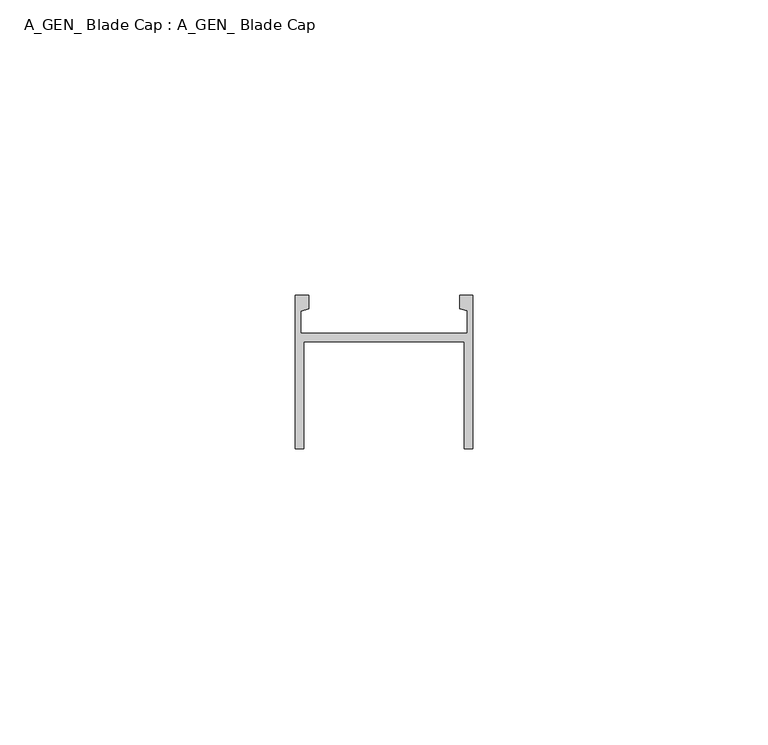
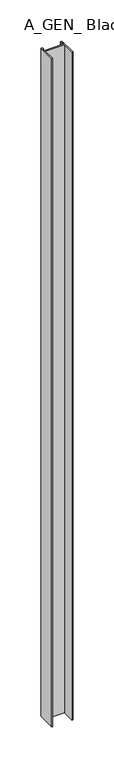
"""IFC4 building model written with IfcOpenShell, lengths in millimetres: proxy geometry, A_GEN_ Blade Cap : A_GEN_ Blade Cap."""

from ifc_helpers import new_model, si_unit, origin, origin_with_axes, place, context, project, spatial, polyline, outline, extrude, source, transform, mapped, element, save


def a_gen_blade_cap_a_gen_blade_cap_4d5c02d1(model_context):
    return source(origin(), model_context, "Body", "SweptSolid", [
        extrude(outline(polyline([(0.0, -25.9289818), (0.0, 0.0), (2.2247172, 0.0), (2.2247172, -2.2419727), (0.9183204, -2.6617834), (0.9183204, -6.4079436), (29.0816796, -6.4079436), (29.0816796, -2.6374539), (27.850993, -2.2419727), (27.850993, 0.0), (30.0, 0.0), (30.0, -25.9289818), (28.6, -25.9289818), (28.6, -7.8079436), (1.4, -7.8079436), (1.4, -25.9289818), (0.0, -25.9289818)])), origin_with_axes(), (0.0, 0.0, 1.0), 992.5516144),
    ])


if __name__ == "__main__":
    model = new_model("IFC4")
    model_context = context("Model", 3, world=origin())
    ifc_project = project(units=[si_unit("LENGTHUNIT", "METRE", prefix="MILLI")], contexts=[model_context])
    site = spatial("IfcSite", under=ifc_project)
    building = spatial("IfcBuilding", under=site)
    placement = place(None, origin())
    a_gen_blade_cap_a_gen_blade_cap_shape = a_gen_blade_cap_a_gen_blade_cap_4d5c02d1(model_context)
    element("IfcBuildingElementProxy", 1, Name="A_GEN_ Blade Cap : A_GEN_ Blade Cap", ObjectType="A_GEN_ Blade Cap : A_GEN_ Blade Cap", at=placement, inside=building, context=model_context, shape_type="MappedRepresentation", body=[
        mapped(a_gen_blade_cap_a_gen_blade_cap_shape, transform((0.0, 0.0, 0.0), x_axis=(1.0, 0.0, 0.0), y_axis=(0.0, 1.0, 0.0), z_axis=(0.0, 0.0, 1.0))),
    ])
    save(model, "model.ifc")
